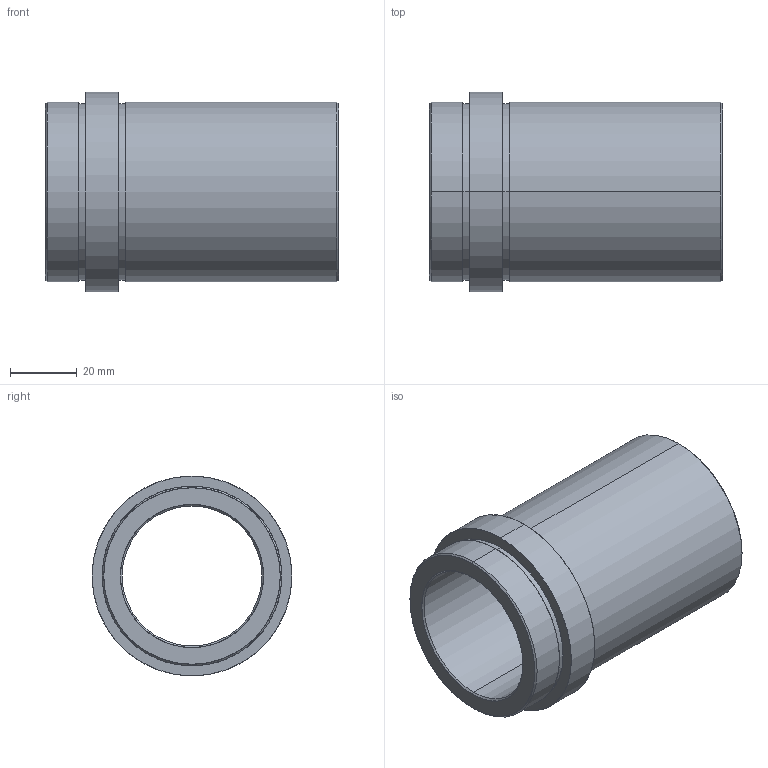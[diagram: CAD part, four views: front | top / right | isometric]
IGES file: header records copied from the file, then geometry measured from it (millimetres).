
Start section: SolidWorks IGES FILE using analytic representation for surfaces
Global section: file name: D:\zzzzz\Delta\D21\42\D21 - 42x76.IGS; native system: SolidWorks 2004 by SolidWorks Corporation; preprocessor: Version 5.3; author: Hkn; date: 080326.193549; units: millimetre
Bounding box: 88 x 60 x 60 mm (x, y, z)
Surface area: 29759.6 mm2 (no closed solid volume)
Topology: 0 solids, 0 shells, 26 faces, 848 edges, 848 vertices
Faces by surface type: revolution 20, bspline 6
